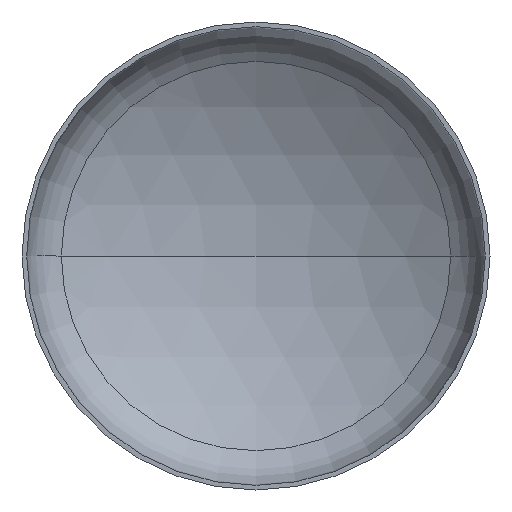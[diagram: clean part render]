
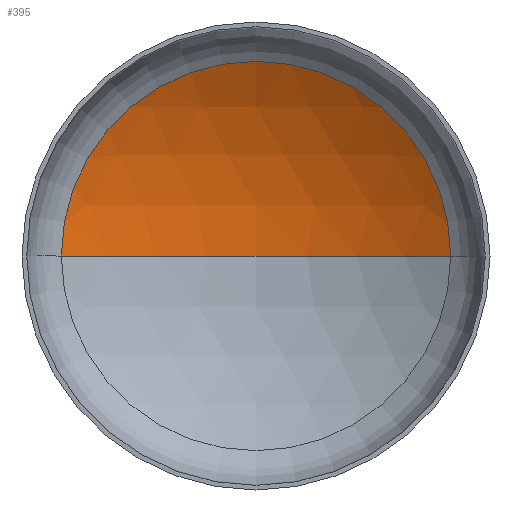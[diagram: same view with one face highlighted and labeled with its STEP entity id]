
A CAD part, front view. The second image highlights one B-rep face of the part: STEP entity #395.
In plain terms, the highlighted spherical face has radius 5600 mm.
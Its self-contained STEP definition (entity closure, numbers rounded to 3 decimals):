
#36 = VERTEX_POINT ( 'NONE', #242 ) ;
#42 = VERTEX_POINT ( 'NONE', #240 ) ;
#51 = ORIENTED_EDGE ( 'NONE', *, *, #205, .T. ) ;
#60 = ORIENTED_EDGE ( 'NONE', *, *, #208, .T. ) ;
#86 = VERTEX_POINT ( 'NONE', #232 ) ;
#91 = DIRECTION ( 'NONE',  ( -1., 0., 0. ) ) ;
#96 = ORIENTED_EDGE ( 'NONE', *, *, #211, .F. ) ;
#97 = EDGE_LOOP ( 'NONE', ( #96, #60, #51 ) ) ;
#120 = AXIS2_PLACEMENT_3D ( 'NONE', #248, #267, #265 ) ;
#125 = AXIS2_PLACEMENT_3D ( 'NONE', #405, #169, #191 ) ;
#128 = AXIS2_PLACEMENT_3D ( 'NONE', #256, #197, #342 ) ;
#144 = FACE_OUTER_BOUND ( 'NONE', #97, .T. ) ;
#169 = DIRECTION ( 'NONE',  ( 0., 0., -1. ) ) ;
#191 = DIRECTION ( 'NONE',  ( -1., 0., 0. ) ) ;
#197 = DIRECTION ( 'NONE',  ( 0., -1., 0. ) ) ;
#205 = EDGE_CURVE ( 'NONE', #86, #36, #333, .T. ) ;
#207 = CARTESIAN_POINT ( 'NONE',  ( 0., -3741.075, 0. ) ) ;
#208 = EDGE_CURVE ( 'NONE', #42, #86, #268, .T. ) ;
#211 = EDGE_CURVE ( 'NONE', #42, #36, #326, .T. ) ;
#232 = CARTESIAN_POINT ( 'NONE',  ( 2911.504, 1042.558, 0. ) ) ;
#240 = CARTESIAN_POINT ( 'NONE',  ( 0., 1858.925, 0. ) ) ;
#242 = CARTESIAN_POINT ( 'NONE',  ( -2911.504, 1042.558, 0. ) ) ;
#248 = CARTESIAN_POINT ( 'NONE',  ( 0., -3741.075, 0. ) ) ;
#256 = CARTESIAN_POINT ( 'NONE',  ( 0., 1042.558, 0. ) ) ;
#265 = DIRECTION ( 'NONE',  ( 1., 0., 0. ) ) ;
#267 = DIRECTION ( 'NONE',  ( 0., 0., 1. ) ) ;
#268 = CIRCLE ( 'NONE', #125, 5600. ) ;
#281 = SPHERICAL_SURFACE ( 'NONE', #378, 5600. ) ;
#326 = CIRCLE ( 'NONE', #120, 5600. ) ;
#333 = CIRCLE ( 'NONE', #128, 2911.504 ) ;
#342 = DIRECTION ( 'NONE',  ( 1., 0., 0. ) ) ;
#378 = AXIS2_PLACEMENT_3D ( 'NONE', #207, #392, #91 ) ;
#392 = DIRECTION ( 'NONE',  ( 0., 0., -1. ) ) ;
#395 = ADVANCED_FACE ( 'NONE', ( #144 ), #281, .F. ) ;
#405 = CARTESIAN_POINT ( 'NONE',  ( 0., -3741.075, 0. ) ) ;
